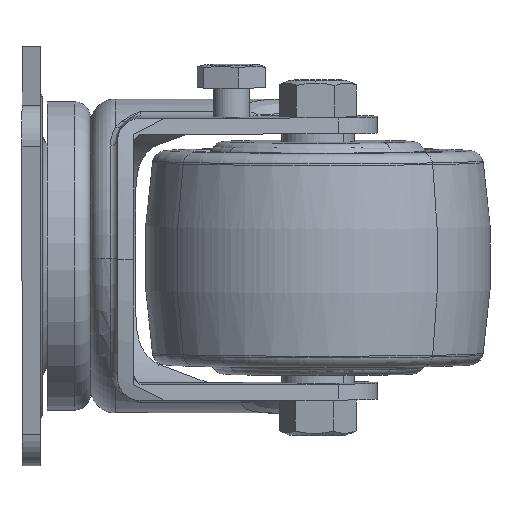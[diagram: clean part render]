
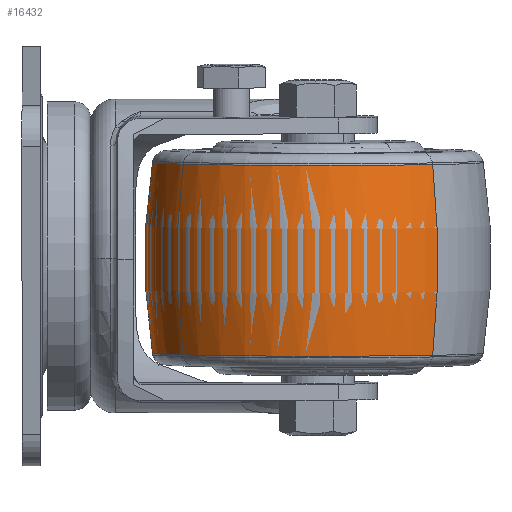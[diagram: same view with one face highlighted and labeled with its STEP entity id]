
A CAD part, left-side view. The second image highlights one B-rep face of the part: STEP entity #16432.
In plain terms, the highlighted toroidal (fillet/blend) face has major radius 101.06 mm and minor radius 139.06 mm.
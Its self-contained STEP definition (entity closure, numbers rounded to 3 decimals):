
#966 = FACE_OUTER_BOUND ( 'NONE', #17338, .T. ) ;
#2247 = CARTESIAN_POINT ( 'NONE',  ( 0., 20.952, 0. ) ) ;
#2603 = EDGE_CURVE ( 'NONE', #16553, #21059, #14097, .T. ) ;
#3784 = DIRECTION ( 'NONE',  ( 1., 0., 0. ) ) ;
#4118 = CARTESIAN_POINT ( 'NONE',  ( 0., 20.952, -36.413 ) ) ;
#4188 = DIRECTION ( 'NONE',  ( 0., 0., 1. ) ) ;
#4237 = AXIS2_PLACEMENT_3D ( 'NONE', #2247, #15913, #4188 ) ;
#4799 = CARTESIAN_POINT ( 'NONE',  ( 0., 0., -101.06 ) ) ;
#5528 = TOROIDAL_SURFACE ( 'NONE', #19175, -101.06, 139.06 ) ;
#5805 = EDGE_CURVE ( 'NONE', #17717, #9594, #21008, .T. ) ;
#6105 = AXIS2_PLACEMENT_3D ( 'NONE', #7992, #21692, #9941 ) ;
#6762 = DIRECTION ( 'NONE',  ( 0., 0., 1. ) ) ;
#6903 = DIRECTION ( 'NONE',  ( 0., 1., 0. ) ) ;
#7452 = CIRCLE ( 'NONE', #16630, 139.06 ) ;
#7992 = CARTESIAN_POINT ( 'NONE',  ( 0., -20.952, 0. ) ) ;
#9406 = EDGE_CURVE ( 'NONE', #16553, #17717, #7452, .T. ) ;
#9594 = VERTEX_POINT ( 'NONE', #20189 ) ;
#9619 = EDGE_CURVE ( 'NONE', #21059, #9594, #14827, .T. ) ;
#9750 = CARTESIAN_POINT ( 'NONE',  ( 0., -20.952, -36.413 ) ) ;
#9941 = DIRECTION ( 'NONE',  ( 0., 0., 1. ) ) ;
#10089 = CARTESIAN_POINT ( 'NONE',  ( 0., -20.952, 36.413 ) ) ;
#10422 = ORIENTED_EDGE ( 'NONE', *, *, #9406, .F. ) ;
#10821 = DIRECTION ( 'NONE',  ( 0., 0., 1. ) ) ;
#14097 = CIRCLE ( 'NONE', #6105, 36.413 ) ;
#14695 = CARTESIAN_POINT ( 'NONE',  ( 0., 0., 0. ) ) ;
#14827 = CIRCLE ( 'NONE', #17422, 139.06 ) ;
#14992 = ORIENTED_EDGE ( 'NONE', *, *, #9619, .T. ) ;
#15486 = CARTESIAN_POINT ( 'NONE',  ( 0., 0., 101.06 ) ) ;
#15913 = DIRECTION ( 'NONE',  ( 0., 1., 0. ) ) ;
#16432 = ADVANCED_FACE ( 'NONE', ( #966 ), #5528, .T. ) ;
#16553 = VERTEX_POINT ( 'NONE', #9750 ) ;
#16630 = AXIS2_PLACEMENT_3D ( 'NONE', #15486, #3784, #17456 ) ;
#17338 = EDGE_LOOP ( 'NONE', ( #10422, #18717, #14992, #24344 ) ) ;
#17422 = AXIS2_PLACEMENT_3D ( 'NONE', #4799, #18479, #6762 ) ;
#17456 = DIRECTION ( 'NONE',  ( 0., 0., -1. ) ) ;
#17717 = VERTEX_POINT ( 'NONE', #4118 ) ;
#18479 = DIRECTION ( 'NONE',  ( -1., 0., 0. ) ) ;
#18717 = ORIENTED_EDGE ( 'NONE', *, *, #2603, .T. ) ;
#19175 = AXIS2_PLACEMENT_3D ( 'NONE', #14695, #6903, #10821 ) ;
#20189 = CARTESIAN_POINT ( 'NONE',  ( 0., 20.952, 36.413 ) ) ;
#21008 = CIRCLE ( 'NONE', #4237, 36.413 ) ;
#21059 = VERTEX_POINT ( 'NONE', #10089 ) ;
#21692 = DIRECTION ( 'NONE',  ( 0., 1., 0. ) ) ;
#24344 = ORIENTED_EDGE ( 'NONE', *, *, #5805, .F. ) ;
